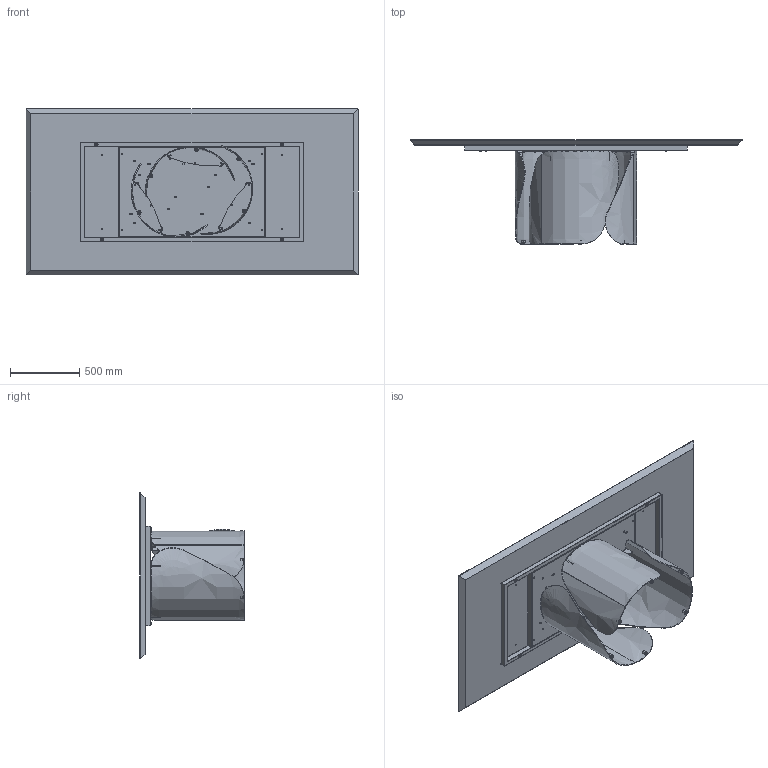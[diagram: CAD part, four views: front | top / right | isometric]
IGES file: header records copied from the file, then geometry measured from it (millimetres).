
Start section: SolidWorks IGES file using analytic representation for surfaces
Global section: file name: Y:\eforma\TECNICO\SOLIDWORKS\E-FORMA\1-TAVOLI\ONDA\02 parts\ON23W.IGS; native system: SolidWorks 2022; preprocessor: SolidWorks 2022; author: eforma.tech; date: 240806.155242; units: millimetre
Bounding box: 2400 x 754 x 1200 mm (x, y, z)
Volume: 117953439.8 mm3; surface area: 12178574.7 mm2
Topology: 59 solids, 59 shells, 1735 faces, 3959 edges, 2353 vertices
Faces by surface type: revolution 1049, plane 626, bspline 60
